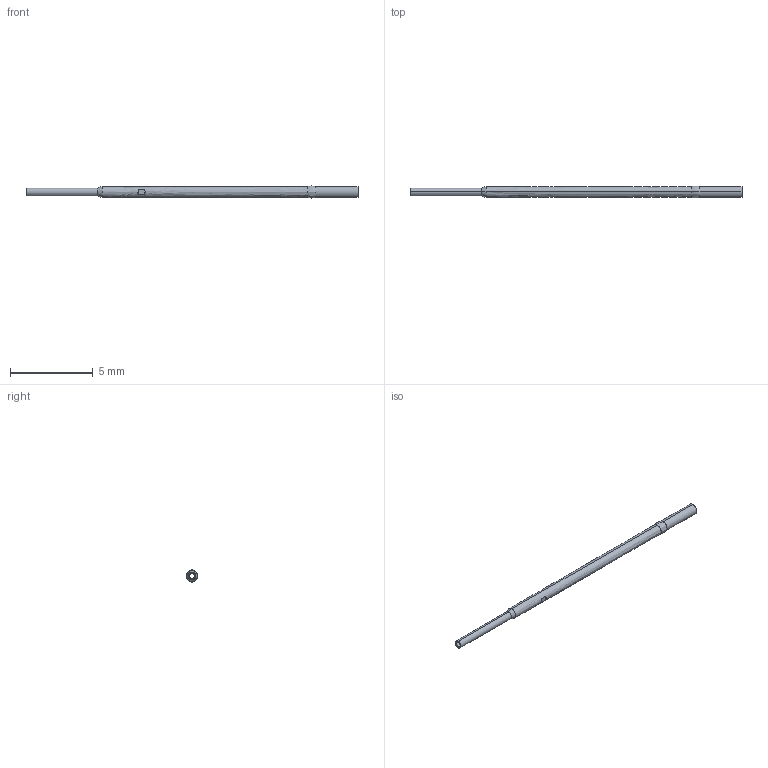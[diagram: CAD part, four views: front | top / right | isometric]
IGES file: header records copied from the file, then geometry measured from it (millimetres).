
Start section: SolidWorks IGES file using analytic representation for surfaces
Global section: file name: Z:\probe solid model mockups\Solidworks models\IGES Files\MEP-30 IGES files\HPR-30W.IGS; native system: SolidWorks 2006 by SolidWorks Corporation; preprocessor: SolidWorks 2006 by SolidWorks Corporation; author: tsakatani; date: 080111.144420; units: inch
Bounding box: 20.07 x 0.72 x 0.73 mm (x, y, z)
Surface area: 69.6 mm2 (no closed solid volume)
Topology: 0 solids, 0 shells, 34 faces, 208 edges, 208 vertices
Faces by surface type: bspline 18, revolution 16
